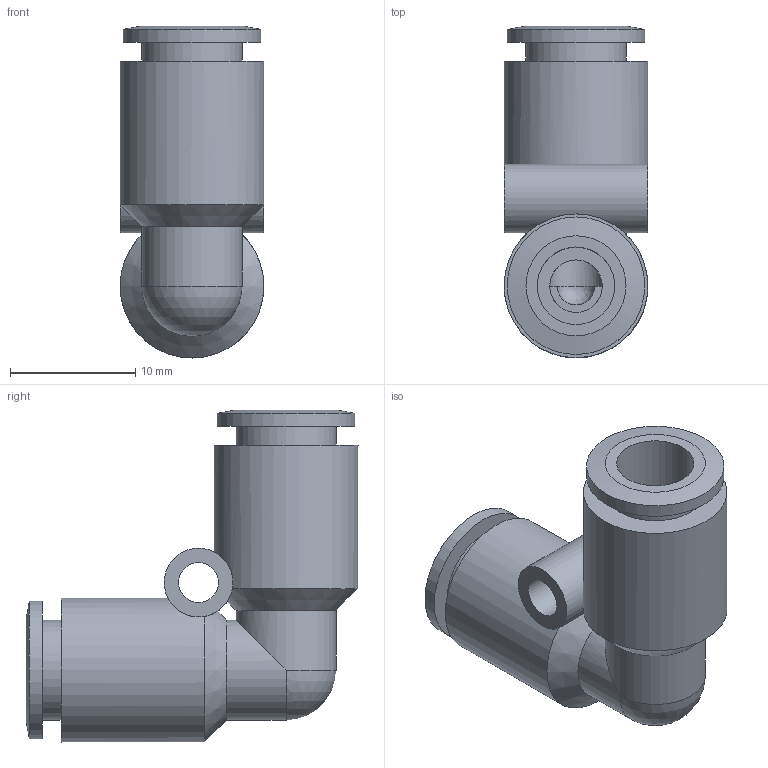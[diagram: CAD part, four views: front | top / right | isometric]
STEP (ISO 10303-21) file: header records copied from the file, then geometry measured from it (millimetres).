
FILE_DESCRIPTION((''),'2;1');
FILE_NAME('C:\Documents and Settings\rivolro1\Documenti\copia di Raccordi\PLASTICA\T04XX00\T040600.stp','2007-10-30T15:36:32',('Rivolro1'),(''),'Autodesk Inventor 2008','Autodesk Inventor 2008','');
FILE_SCHEMA(('AUTOMOTIVE_DESIGN { 1 0 10303 214 1 1 1 1 }'));
Length unit declared in the file: millimetre
Products named in the file (1): T040600
Bounding box: 11.5 x 26.55 x 26.55 mm (x, y, z)
Volume: 2506 mm3; surface area: 2708.4 mm2
Topology: 1 solids, 1 shells, 32 faces, 66 edges, 40 vertices
Faces by surface type: cylinder 12, plane 10, bspline 5, cone 4, sphere 1
Full cylindrical faces by diameter (mm): 3.2 x1, 4.2 x2, 5.5 x1, 8 x4, 11 x2, 11.5 x2
Entity records: 929 total; most frequent: CARTESIAN_POINT 291, DIRECTION 130, ORIENTED_EDGE 84, AXIS2_PLACEMENT_3D 64, EDGE_LOOP 62, EDGE_CURVE 42, VERTEX_POINT 36, CIRCLE 34
